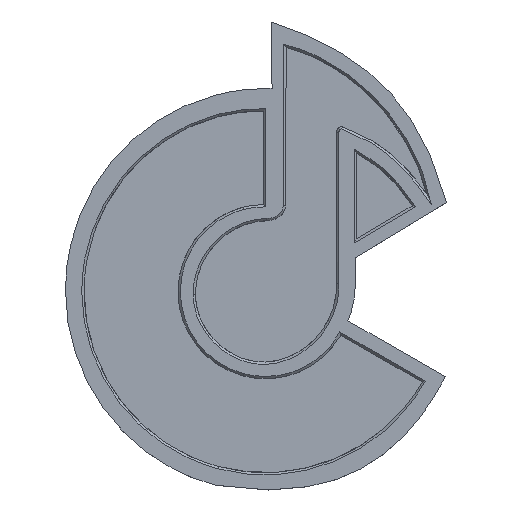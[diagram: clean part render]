
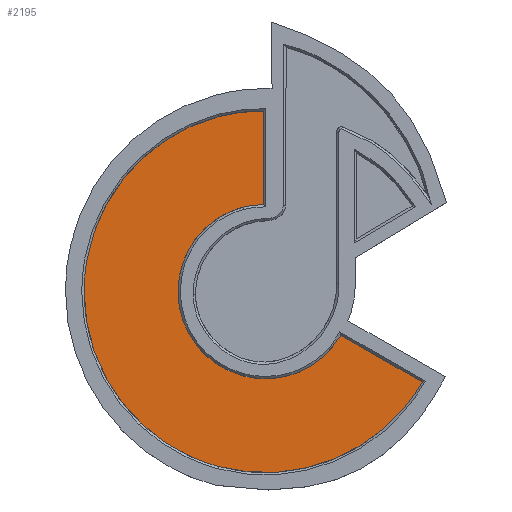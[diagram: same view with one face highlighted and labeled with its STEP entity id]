
A CAD part, top view. The second image highlights one B-rep face of the part: STEP entity #2195.
In plain terms, the highlighted planar face has unit normal (0, 0, 1).
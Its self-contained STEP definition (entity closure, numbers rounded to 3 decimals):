
#62=(
BOUNDED_CURVE()
B_SPLINE_CURVE(3,(#4587,#4588,#4589,#4590),.UNSPECIFIED.,.F.,.F.)
B_SPLINE_CURVE_WITH_KNOTS((4,4),(0.,1.),.UNSPECIFIED.)
CURVE()
GEOMETRIC_REPRESENTATION_ITEM()
RATIONAL_B_SPLINE_CURVE((1.,1.,1.,1.))
REPRESENTATION_ITEM('')
);
#63=(
BOUNDED_CURVE()
B_SPLINE_CURVE(3,(#4602,#4603,#4604,#4605),.UNSPECIFIED.,.F.,.F.)
B_SPLINE_CURVE_WITH_KNOTS((4,4),(0.,1.),.UNSPECIFIED.)
CURVE()
GEOMETRIC_REPRESENTATION_ITEM()
RATIONAL_B_SPLINE_CURVE((1.,1.,1.,1.))
REPRESENTATION_ITEM('')
);
#64=(
BOUNDED_CURVE()
B_SPLINE_CURVE(3,(#4616,#4617,#4618,#4619),.UNSPECIFIED.,.F.,.F.)
B_SPLINE_CURVE_WITH_KNOTS((4,4),(0.,1.),.UNSPECIFIED.)
CURVE()
GEOMETRIC_REPRESENTATION_ITEM()
RATIONAL_B_SPLINE_CURVE((1.,1.,1.,1.))
REPRESENTATION_ITEM('')
);
#65=(
BOUNDED_CURVE()
B_SPLINE_CURVE(3,(#4630,#4631,#4632,#4633),.UNSPECIFIED.,.F.,.F.)
B_SPLINE_CURVE_WITH_KNOTS((4,4),(0.,1.),.UNSPECIFIED.)
CURVE()
GEOMETRIC_REPRESENTATION_ITEM()
RATIONAL_B_SPLINE_CURVE((1.,1.,1.,1.))
REPRESENTATION_ITEM('')
);
#66=(
BOUNDED_CURVE()
B_SPLINE_CURVE(3,(#4743,#4744,#4745,#4746),.UNSPECIFIED.,.F.,.F.)
B_SPLINE_CURVE_WITH_KNOTS((4,4),(0.,1.),.UNSPECIFIED.)
CURVE()
GEOMETRIC_REPRESENTATION_ITEM()
RATIONAL_B_SPLINE_CURVE((1.,1.,1.,1.))
REPRESENTATION_ITEM('')
);
#67=(
BOUNDED_CURVE()
B_SPLINE_CURVE(3,(#4782,#4783,#4784,#4785),.UNSPECIFIED.,.F.,.F.)
B_SPLINE_CURVE_WITH_KNOTS((4,4),(0.,1.),.UNSPECIFIED.)
CURVE()
GEOMETRIC_REPRESENTATION_ITEM()
RATIONAL_B_SPLINE_CURVE((1.,1.,1.,1.))
REPRESENTATION_ITEM('')
);
#68=(
BOUNDED_CURVE()
B_SPLINE_CURVE(3,(#4805,#4806,#4807,#4808),.UNSPECIFIED.,.F.,.F.)
B_SPLINE_CURVE_WITH_KNOTS((4,4),(0.,1.),.UNSPECIFIED.)
CURVE()
GEOMETRIC_REPRESENTATION_ITEM()
RATIONAL_B_SPLINE_CURVE((1.,1.,1.,1.))
REPRESENTATION_ITEM('')
);
#69=(
BOUNDED_CURVE()
B_SPLINE_CURVE(3,(#4866,#4867,#4868,#4869),.UNSPECIFIED.,.F.,.F.)
B_SPLINE_CURVE_WITH_KNOTS((4,4),(0.,1.),.UNSPECIFIED.)
CURVE()
GEOMETRIC_REPRESENTATION_ITEM()
RATIONAL_B_SPLINE_CURVE((1.,1.,1.,1.))
REPRESENTATION_ITEM('')
);
#241=FACE_OUTER_BOUND('',#383,.T.);
#383=EDGE_LOOP('',(#1845,#1846,#1847,#1848,#1849,#1850,#1851,#1852,#1853,
#1854));
#674=LINE('',#4637,#812);
#685=LINE('',#4856,#823);
#812=VECTOR('',#2429,10.);
#823=VECTOR('',#2446,10.);
#983=VERTEX_POINT('',#4584);
#984=VERTEX_POINT('',#4586);
#985=VERTEX_POINT('',#4600);
#986=VERTEX_POINT('',#4614);
#987=VERTEX_POINT('',#4628);
#988=VERTEX_POINT('',#4635);
#1002=VERTEX_POINT('',#4741);
#1004=VERTEX_POINT('',#4780);
#1006=VERTEX_POINT('',#4803);
#1009=VERTEX_POINT('',#4855);
#1256=EDGE_CURVE('',#984,#983,#62,.T.);
#1259=EDGE_CURVE('',#983,#985,#63,.T.);
#1261=EDGE_CURVE('',#985,#986,#64,.T.);
#1263=EDGE_CURVE('',#986,#987,#65,.T.);
#1265=EDGE_CURVE('',#987,#988,#674,.T.);
#1282=EDGE_CURVE('',#988,#1002,#66,.T.);
#1286=EDGE_CURVE('',#1002,#1004,#67,.T.);
#1290=EDGE_CURVE('',#1004,#1006,#68,.T.);
#1295=EDGE_CURVE('',#1009,#984,#685,.T.);
#1297=EDGE_CURVE('',#1006,#1009,#69,.T.);
#1845=ORIENTED_EDGE('',*,*,#1265,.T.);
#1846=ORIENTED_EDGE('',*,*,#1282,.T.);
#1847=ORIENTED_EDGE('',*,*,#1286,.T.);
#1848=ORIENTED_EDGE('',*,*,#1290,.T.);
#1849=ORIENTED_EDGE('',*,*,#1297,.T.);
#1850=ORIENTED_EDGE('',*,*,#1295,.T.);
#1851=ORIENTED_EDGE('',*,*,#1256,.T.);
#1852=ORIENTED_EDGE('',*,*,#1259,.T.);
#1853=ORIENTED_EDGE('',*,*,#1261,.T.);
#1854=ORIENTED_EDGE('',*,*,#1263,.T.);
#2084=PLANE('',#2283);
#2195=ADVANCED_FACE('',(#241),#2084,.T.);
#2283=AXIS2_PLACEMENT_3D('',#4931,#2453,#2454);
#2429=DIRECTION('',(0.,1.,0.));
#2446=DIRECTION('',(-0.866,0.5,0.));
#2453=DIRECTION('center_axis',(0.,0.,1.));
#2454=DIRECTION('ref_axis',(1.,0.,0.));
#4584=CARTESIAN_POINT('',(-6.071,-10.888,2.));
#4586=CARTESIAN_POINT('',(6.458,-5.698,2.));
#4587=CARTESIAN_POINT('Ctrl Pts',(6.458,-5.698,2.));
#4588=CARTESIAN_POINT('Ctrl Pts',(3.922,-10.091,2.));
#4589=CARTESIAN_POINT('Ctrl Pts',(-1.172,-12.201,2.));
#4590=CARTESIAN_POINT('Ctrl Pts',(-6.071,-10.888,2.));
#4600=CARTESIAN_POINT('',(-14.335,-0.126,2.));
#4602=CARTESIAN_POINT('Ctrl Pts',(-6.071,-10.888,2.));
#4603=CARTESIAN_POINT('Ctrl Pts',(-10.971,-9.575,2.));
#4604=CARTESIAN_POINT('Ctrl Pts',(-14.335,-5.199,2.));
#4605=CARTESIAN_POINT('Ctrl Pts',(-14.335,-0.126,
2.));
#4614=CARTESIAN_POINT('',(-6.071,10.635,2.));
#4616=CARTESIAN_POINT('Ctrl Pts',(-14.335,-0.126,
2.));
#4617=CARTESIAN_POINT('Ctrl Pts',(-14.335,4.946,2.));
#4618=CARTESIAN_POINT('Ctrl Pts',(-10.971,9.322,2.));
#4619=CARTESIAN_POINT('Ctrl Pts',(-6.071,10.635,2.));
#4628=CARTESIAN_POINT('',(-3.446,10.983,2.));
#4630=CARTESIAN_POINT('Ctrl Pts',(-6.071,10.635,2.));
#4631=CARTESIAN_POINT('Ctrl Pts',(-5.196,10.87,2.));
#4632=CARTESIAN_POINT('Ctrl Pts',(-4.318,10.961,2.));
#4633=CARTESIAN_POINT('Ctrl Pts',(-3.446,10.983,2.));
#4635=CARTESIAN_POINT('',(-3.446,22.936,2.));
#4637=CARTESIAN_POINT('',(-3.446,10.983,2.));
#4741=CARTESIAN_POINT('',(-9.178,22.226,2.));
#4743=CARTESIAN_POINT('Ctrl Pts',(-3.446,22.936,2.));
#4744=CARTESIAN_POINT('Ctrl Pts',(-5.353,22.914,2.));
#4745=CARTESIAN_POINT('Ctrl Pts',(-7.274,22.736,2.));
#4746=CARTESIAN_POINT('Ctrl Pts',(-9.178,22.226,2.));
#4780=CARTESIAN_POINT('',(-26.335,-0.126,2.));
#4782=CARTESIAN_POINT('Ctrl Pts',(-9.178,22.226,2.));
#4783=CARTESIAN_POINT('Ctrl Pts',(-19.268,19.523,2.));
#4784=CARTESIAN_POINT('Ctrl Pts',(-26.335,10.319,2.));
#4785=CARTESIAN_POINT('Ctrl Pts',(-26.335,-0.126,
2.));
#4803=CARTESIAN_POINT('',(-9.178,-22.479,2.));
#4805=CARTESIAN_POINT('Ctrl Pts',(-26.335,-0.126,
2.));
#4806=CARTESIAN_POINT('Ctrl Pts',(-26.335,-10.572,2.));
#4807=CARTESIAN_POINT('Ctrl Pts',(-19.268,-19.776,2.));
#4808=CARTESIAN_POINT('Ctrl Pts',(-9.178,-22.479,2.));
#4855=CARTESIAN_POINT('',(16.851,-11.698,2.));
#4856=CARTESIAN_POINT('',(16.851,-11.698,2.));
#4866=CARTESIAN_POINT('Ctrl Pts',(-9.178,-22.479,2.));
#4867=CARTESIAN_POINT('Ctrl Pts',(0.911,-25.183,2.));
#4868=CARTESIAN_POINT('Ctrl Pts',(11.628,-20.744,2.));
#4869=CARTESIAN_POINT('Ctrl Pts',(16.851,-11.698,2.));
#4931=CARTESIAN_POINT('Origin',(-4.742,-1.123,2.));
